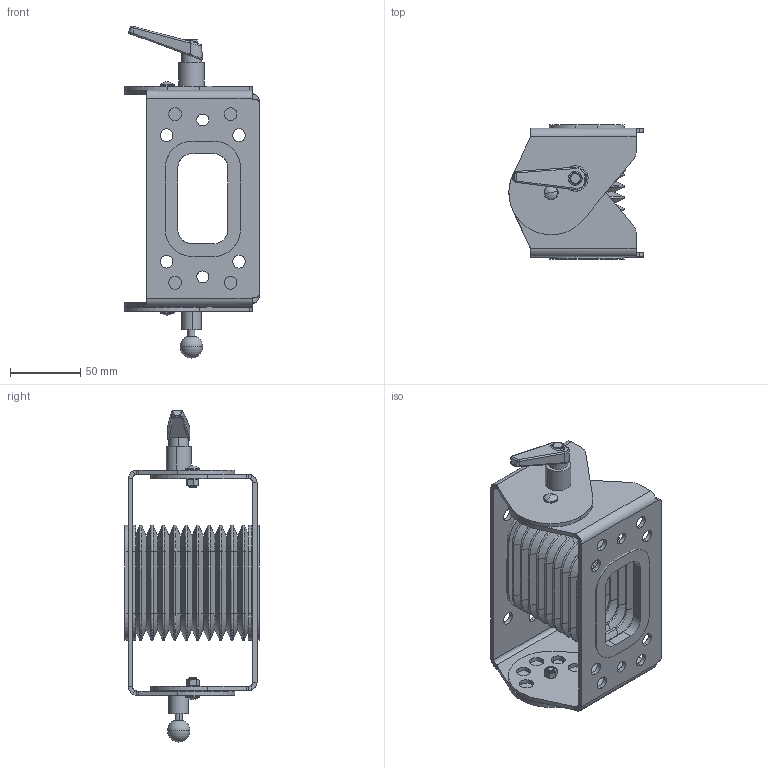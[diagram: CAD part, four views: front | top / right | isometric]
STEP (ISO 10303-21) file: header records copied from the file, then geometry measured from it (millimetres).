
FILE_DESCRIPTION (( 'STEP AP203' ), '1' );
FILE_NAME ('TP.060.3410.STEP', '2026-09-30T09:46:45', ( '' ), ( '' ), 'SwSTEP 2.0', 'SolidWorks 2015', '' );
FILE_SCHEMA (( 'CONFIG_CONTROL_DESIGN' ));
Length unit declared in the file: millimetre
Products named in the file (16): disli parca_3; Part10^Assem10; kovan_1; M6_mushroom head_square neck_m5; 60-4 K; Part11^Assem10; kaucuk koruk_duz ezilmiŸ; Part13^Assem10; Assem10_3; sýkma yataðý; 60-4 V; Part12^Assem10; yay; M5 Fiberli Somun(HDSM05000001); TP.060.3410; Copy (3) of 6206_300__W_0__3
Assembly tree (14 placements, depth 3):
  Part10^Assem10
  Part11^Assem10
  Part12^Assem10
  TP.060.3410
    60-4 K
    60-4 V
    sýkma yataðý
    kaucuk koruk_duz ezilmiŸ
    Assem10_3
      kovan_1
      disli parca_3
      Part13^Assem10
      yay
    Copy (3) of 6206_300__W_0__3
    M6_mushroom head_square neck_m5  x2
    M5 Fiberli Somun(HDSM05000001)  x2
Bounding box: 95.41 x 95.38 x 236.07 mm (x, y, z)
Volume: 172102.8 mm3; surface area: 182647.5 mm2
Topology: 13 solids, 14 shells, 1247 faces, 2788 edges, 1584 vertices
Faces by surface type: plane 331, torus 283, cylinder 234, bspline 205, cone 182, sphere 12
Entity records: 66615 total; most frequent: CARTESIAN_POINT 42487, ORIENTED_EDGE 5216, DIRECTION 3632, EDGE_CURVE 2608, AXIS2_PLACEMENT_3D 1518, VERTEX_POINT 1482, B_SPLINE_CURVE_WITH_KNOTS 1436, EDGE_LOOP 1268
